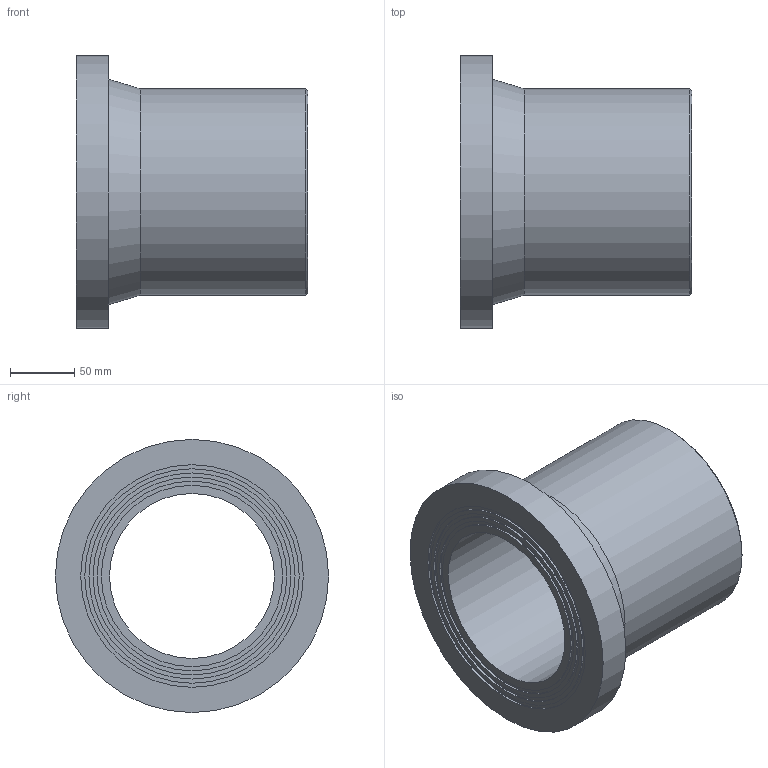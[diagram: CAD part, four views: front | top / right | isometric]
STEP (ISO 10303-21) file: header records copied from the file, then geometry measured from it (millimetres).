
FILE_DESCRIPTION(/* description */ ('Stub Flange 160'),/* implementation_level */ '2;1');
FILE_NAME(/* name */ 'C:\Dropbox\KIMPROJECTS-Inventor\99-16-3568-Processing\ElectroFusion Fittings\31.03.19\490207\490207160.ipt.stp',/* time_stamp */ '2019-03-31T18:57:47+03:00',/* author */ ('Кирилл'),/* organization */ (''),/* preprocessor_version */ 'ST-DEVELOPER v15.6',/* originating_system */ 'Autodesk Inventor 2015',/* authorisation */ '');
FILE_SCHEMA (('AUTOMOTIVE_DESIGN { 1 0 10303 214 3 1 1 }'));
Length unit declared in the file: millimetre
Products named in the file (1): 490207160
Bounding box: 180 x 212 x 212 mm (x, y, z)
Volume: 1723090.9 mm3; surface area: 213282.4 mm2
Topology: 1 solids, 1 shells, 20 faces, 31 edges, 20 vertices
Faces by surface type: cylinder 9, plane 9, cone 2
Full cylindrical faces by diameter (mm): 128 x1, 140.8 x1, 147.2 x1, 153.6 x1, 160 x2, 166.4 x1, 172.8 x1, 212 x1
Entity records: 432 total; most frequent: DIRECTION 82, CARTESIAN_POINT 61, AXIS2_PLACEMENT_3D 41, EDGE_LOOP 40, ORIENTED_EDGE 40, FACE_BOUND 20, FACE_OUTER_BOUND 20, CIRCLE 20
